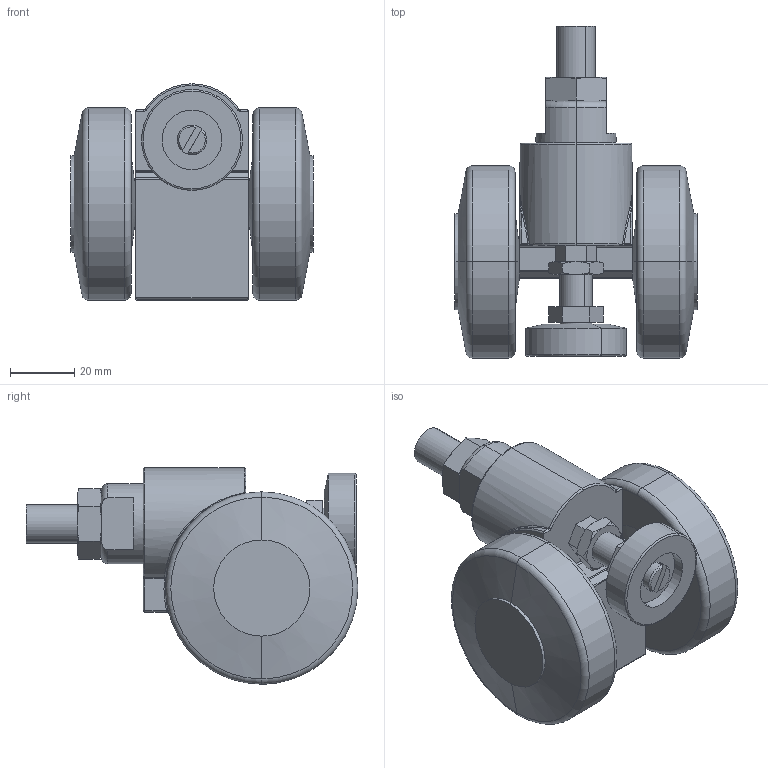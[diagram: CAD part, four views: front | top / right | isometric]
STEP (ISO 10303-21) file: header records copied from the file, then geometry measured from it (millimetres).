
FILE_DESCRIPTION (( 'STEP AP203' ), '1' );
FILE_NAME ('ps1clkld.STEP', '2018-10-16T14:21:59', ( '' ), ( '' ), 'SwSTEP 2.0', 'SolidWorks 2016', '' );
FILE_SCHEMA (( 'CONFIG_CONTROL_DESIGN' ));
Length unit declared in the file: millimetre
Products named in the file (5): 89167015_89167015; 89167014; 89166978; 89167016_Standard; ps1clkld
Assembly tree (4 placements, depth 3):
  ps1clkld
    89167014
      89167015_89167015
      89167016_Standard
      89166978
Bounding box: 75.5 x 103.5 x 67.5 mm (x, y, z)
Volume: 186051.5 mm3; surface area: 38472.5 mm2
Topology: 4 solids, 4 shells, 212 faces, 491 edges, 299 vertices
Faces by surface type: plane 62, cylinder 55, cone 42, torus 29, bspline 20, sphere 4
Entity records: 8272 total; most frequent: CARTESIAN_POINT 3074, DIRECTION 981, ORIENTED_EDGE 978, EDGE_CURVE 489, AXIS2_PLACEMENT_3D 408, VERTEX_POINT 299, EDGE_LOOP 230, FACE_OUTER_BOUND 212
